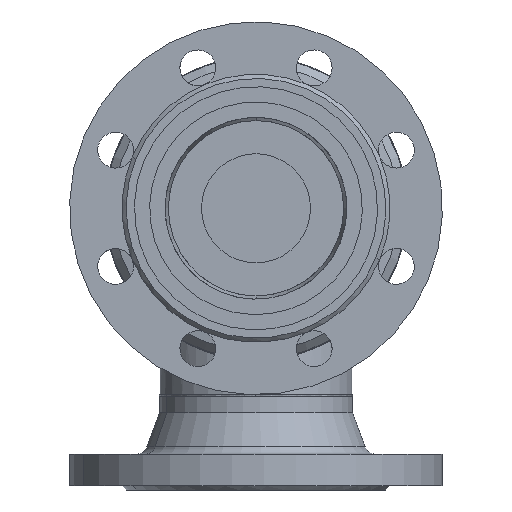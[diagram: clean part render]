
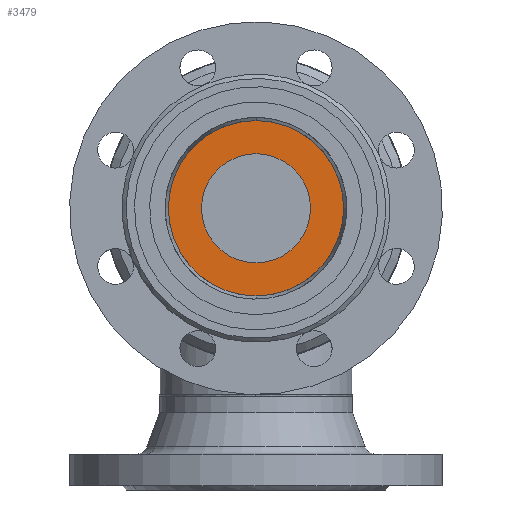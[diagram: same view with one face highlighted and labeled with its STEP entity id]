
A CAD part, front view. The second image highlights one B-rep face of the part: STEP entity #3479.
In plain terms, the highlighted planar face has unit normal (0, -1, 0) as drawn and (0, 0, 1) by its records, which use the part's own axes.
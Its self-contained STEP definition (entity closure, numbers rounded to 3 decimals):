
#346 = CARTESIAN_POINT ( 'NONE',  ( 39.5, 0., 15. ) ) ;
#357 = CIRCLE ( 'NONE', #363, 39.5 ) ;
#363 = AXIS2_PLACEMENT_3D ( 'NONE', #364, #365, #366 ) ;
#364 = CARTESIAN_POINT ( 'NONE',  ( 0., 0., 15. ) ) ;
#365 = DIRECTION ( 'NONE',  ( 0., 0., 1. ) ) ;
#366 = DIRECTION ( 'NONE',  ( 1., 0., 0. ) ) ;
#652 = CARTESIAN_POINT ( 'NONE',  ( -70., 0., 15. ) ) ;
#768 = EDGE_CURVE ( 'NONE', #2425, #2454, #3735, .T. ) ;
#804 = CARTESIAN_POINT ( 'NONE',  ( 70., 0., 15. ) ) ;
#913 = CIRCLE ( 'NONE', #914, 70. ) ;
#914 = AXIS2_PLACEMENT_3D ( 'NONE', #915, #916, #917 ) ;
#915 = CARTESIAN_POINT ( 'NONE',  ( 0., 0., 15. ) ) ;
#916 = DIRECTION ( 'NONE',  ( 0., 0., 1. ) ) ;
#917 = DIRECTION ( 'NONE',  ( 1., 0., 0. ) ) ;
#1124 = ORIENTED_EDGE ( 'NONE', *, *, #768, .T. ) ;
#2425 = VERTEX_POINT ( 'NONE', #652 ) ;
#2454 = VERTEX_POINT ( 'NONE', #804 ) ;
#2472 = EDGE_CURVE ( 'NONE', #2454, #2425, #913, .T. ) ;
#2570 = ORIENTED_EDGE ( 'NONE', *, *, #7810, .F. ) ;
#2613 = EDGE_LOOP ( 'NONE', ( #2570, #7299 ) ) ;
#2639 = ORIENTED_EDGE ( 'NONE', *, *, #2472, .T. ) ;
#3346 = EDGE_LOOP ( 'NONE', ( #1124, #2639 ) ) ;
#3479 = ADVANCED_FACE ( 'NONE', ( #5774, #5775 ), #5776, .T. ) ;
#3735 = CIRCLE ( 'NONE', #3737, 70. ) ;
#3737 = AXIS2_PLACEMENT_3D ( 'NONE', #3738, #3739, #3740 ) ;
#3738 = CARTESIAN_POINT ( 'NONE',  ( 0., 0., 15. ) ) ;
#3739 = DIRECTION ( 'NONE',  ( 0., 0., 1. ) ) ;
#3740 = DIRECTION ( 'NONE',  ( 1., 0., 0. ) ) ;
#5774 = FACE_OUTER_BOUND ( 'NONE', #3346, .T. ) ;
#5775 = FACE_BOUND ( 'NONE', #2613, .T. ) ;
#5776 = PLANE ( 'NONE',  #5777 ) ;
#5777 = AXIS2_PLACEMENT_3D ( 'NONE', #5778, #5779, #5780 ) ;
#5778 = CARTESIAN_POINT ( 'NONE',  ( 0., 0., 15. ) ) ;
#5779 = DIRECTION ( 'NONE',  ( 0., 0., 1. ) ) ;
#5780 = DIRECTION ( 'NONE',  ( 1., 0., 0. ) ) ;
#7118 = EDGE_CURVE ( 'NONE', #7792, #9551, #9528, .T. ) ;
#7299 = ORIENTED_EDGE ( 'NONE', *, *, #7118, .F. ) ;
#7538 = CARTESIAN_POINT ( 'NONE',  ( -39.5, 0., 15. ) ) ;
#7792 = VERTEX_POINT ( 'NONE', #346 ) ;
#7810 = EDGE_CURVE ( 'NONE', #9551, #7792, #357, .T. ) ;
#9528 = CIRCLE ( 'NONE', #9529, 39.5 ) ;
#9529 = AXIS2_PLACEMENT_3D ( 'NONE', #9532, #9533, #9534 ) ;
#9532 = CARTESIAN_POINT ( 'NONE',  ( 0., 0., 15. ) ) ;
#9533 = DIRECTION ( 'NONE',  ( 0., 0., 1. ) ) ;
#9534 = DIRECTION ( 'NONE',  ( 1., 0., 0. ) ) ;
#9551 = VERTEX_POINT ( 'NONE', #7538 ) ;
